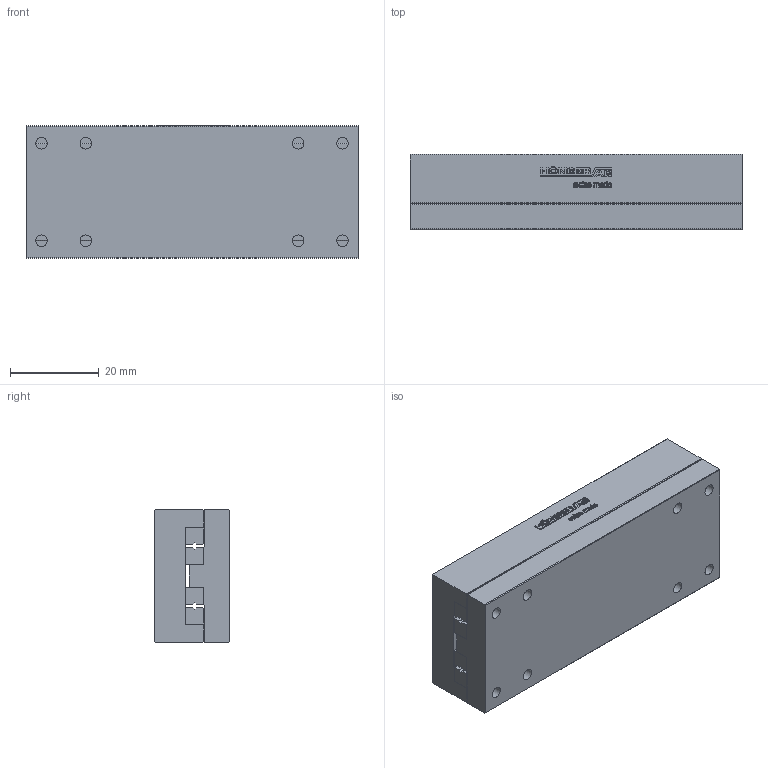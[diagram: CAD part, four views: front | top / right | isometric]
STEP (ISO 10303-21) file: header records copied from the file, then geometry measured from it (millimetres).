
FILE_DESCRIPTION(/* description */ ('STEP AP214'),/* implementation_level */ '2;1');
FILE_NAME(/* name */ 'NK 1-75-B(0)',/* time_stamp */ '2025-04-22T17:47:00+02:00',/* author */ ('License CC BY-ND 4.0'),/* organization */ ('CADENAS'),/* preprocessor_version */ 'ST-DEVELOPER v19.3',/* originating_system */ 'PARTsolutions',/* authorisation */ ' ');
FILE_SCHEMA (('AUTOMOTIVE_DESIGN {1 0 10303 214 3 1 1}'));
Length unit declared in the file: millimetre
Products named in the file (3): NK 1-75-B(0); NK 1-75-B_1; NK 1-75-B_2
Assembly tree (2 placements, depth 2):
  NK 1-75-B(0)
    NK 1-75-B_1
    NK 1-75-B_2
Bounding box: 75 x 17 x 30 mm (x, y, z)
Volume: 36591.2 mm3; surface area: 17001.2 mm2
Topology: 2 solids, 2 shells, 633 faces, 1730 edges, 1140 vertices
Faces by surface type: cylinder 320, plane 289, cone 24
Full cylindrical faces by diameter (mm): 1.567 x12, 2.6 x8, 4.1 x8
Entity records: 20103 total; most frequent: DIRECTION 3614, CARTESIAN_POINT 3454, ORIENTED_EDGE 3356, EDGE_CURVE 1678, AXIS2_PLACEMENT_3D 1300, VERTEX_POINT 1140, LINE 1014, VECTOR 1014
